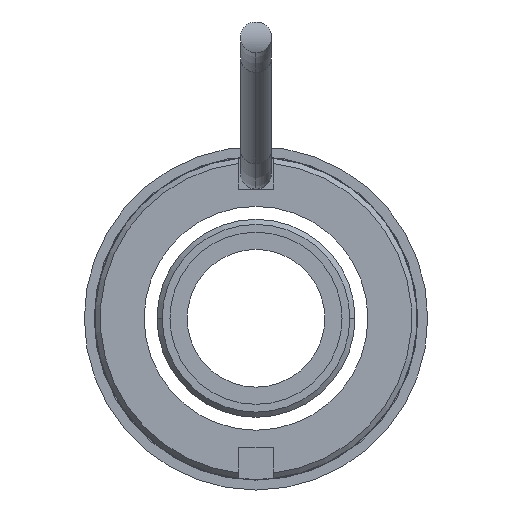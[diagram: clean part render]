
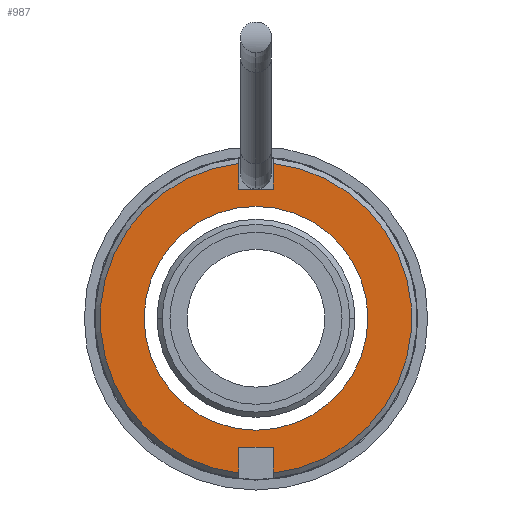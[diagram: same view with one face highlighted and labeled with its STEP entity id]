
A CAD part, left-side view. The second image highlights one B-rep face of the part: STEP entity #987.
In plain terms, the highlighted planar face has unit normal (-1, 0, 0).
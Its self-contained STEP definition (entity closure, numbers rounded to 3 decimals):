
#181=DIRECTION('',(0.,0.,1.));
#182=VECTOR('',#181,1.495);
#183=CARTESIAN_POINT('',(12.,1.,7.5));
#184=LINE('',#183,#182);
#195=DIRECTION('',(0.,1.,0.));
#196=VECTOR('',#195,2.);
#197=CARTESIAN_POINT('',(12.,-1.,-7.5));
#198=LINE('',#197,#196);
#202=DIRECTION('',(0.,0.,-1.));
#203=VECTOR('',#202,1.495);
#204=CARTESIAN_POINT('',(12.,1.,-7.5));
#205=LINE('',#204,#203);
#209=CARTESIAN_POINT('',(12.,0.,0.));
#210=DIRECTION('',(1.,0.,0.));
#211=DIRECTION('',(0.,0.11,-0.994));
#212=AXIS2_PLACEMENT_3D('',#209,#210,#211);
#217=DIRECTION('',(0.,-1.,0.));
#218=VECTOR('',#217,2.);
#219=CARTESIAN_POINT('',(12.,1.,7.5));
#220=LINE('',#219,#218);
#224=DIRECTION('',(0.,0.,1.));
#225=VECTOR('',#224,1.495);
#226=CARTESIAN_POINT('',(12.,-1.,7.5));
#227=LINE('',#226,#225);
#231=CARTESIAN_POINT('',(12.,0.,0.));
#232=DIRECTION('',(1.,0.,0.));
#233=DIRECTION('',(0.,-0.11,0.994));
#234=AXIS2_PLACEMENT_3D('',#231,#232,#233);
#239=CARTESIAN_POINT('',(12.,0.,0.));
#240=DIRECTION('',(-1.,0.,0.));
#241=DIRECTION('',(0.,-1.,0.));
#242=AXIS2_PLACEMENT_3D('',#239,#240,#241);
#247=CARTESIAN_POINT('',(12.,0.,0.));
#248=DIRECTION('',(-1.,0.,0.));
#249=DIRECTION('',(0.,1.,0.));
#250=AXIS2_PLACEMENT_3D('',#247,#248,#249);
#262=DIRECTION('',(0.,0.,-1.));
#263=VECTOR('',#262,1.495);
#264=CARTESIAN_POINT('',(12.,-1.,-7.5));
#265=LINE('',#264,#263);
#758=CARTESIAN_POINT('',(12.,-1.,-7.5));
#759=CARTESIAN_POINT('',(12.,-1.,-8.995));
#760=VERTEX_POINT('',#758);
#761=VERTEX_POINT('',#759);
#762=CARTESIAN_POINT('',(12.,1.,-7.5));
#763=VERTEX_POINT('',#762);
#764=CARTESIAN_POINT('',(12.,1.,-8.995));
#765=VERTEX_POINT('',#764);
#766=CARTESIAN_POINT('',(12.,1.,8.995));
#767=VERTEX_POINT('',#766);
#768=CARTESIAN_POINT('',(12.,1.,7.5));
#769=VERTEX_POINT('',#768);
#770=CARTESIAN_POINT('',(12.,-1.,7.5));
#771=VERTEX_POINT('',#770);
#772=CARTESIAN_POINT('',(12.,-1.,8.995));
#773=VERTEX_POINT('',#772);
#844=CARTESIAN_POINT('',(12.,-6.5,0.));
#845=CARTESIAN_POINT('',(12.,6.5,0.));
#846=VERTEX_POINT('',#844);
#847=VERTEX_POINT('',#845);
#961=CARTESIAN_POINT('',(12.,0.,0.));
#962=DIRECTION('',(1.,0.,0.));
#963=DIRECTION('',(0.,0.,1.));
#964=AXIS2_PLACEMENT_3D('',#961,#962,#963);
#965=PLANE('',#964);
#967=ORIENTED_EDGE('',*,*,#966,.F.);
#969=ORIENTED_EDGE('',*,*,#968,.T.);
#970=ORIENTED_EDGE('',*,*,#899,.T.);
#971=ORIENTED_EDGE('',*,*,#926,.T.);
#972=ORIENTED_EDGE('',*,*,#943,.F.);
#974=ORIENTED_EDGE('',*,*,#973,.T.);
#976=ORIENTED_EDGE('',*,*,#975,.T.);
#978=ORIENTED_EDGE('',*,*,#977,.T.);
#979=EDGE_LOOP('',(#967,#969,#970,#971,#972,#974,#976,#978));
#980=FACE_OUTER_BOUND('',#979,.F.);
#982=ORIENTED_EDGE('',*,*,#981,.T.);
#984=ORIENTED_EDGE('',*,*,#983,.T.);
#985=EDGE_LOOP('',(#982,#984));
#986=FACE_BOUND('',#985,.F.);
#213=CIRCLE('',#212,9.05);
#235=CIRCLE('',#234,9.05);
#243=CIRCLE('',#242,6.5);
#251=CIRCLE('',#250,6.5);
#899=EDGE_CURVE('',#763,#765,#205,.T.);
#926=EDGE_CURVE('',#765,#767,#213,.T.);
#943=EDGE_CURVE('',#769,#767,#184,.T.);
#966=EDGE_CURVE('',#760,#761,#265,.T.);
#968=EDGE_CURVE('',#760,#763,#198,.T.);
#973=EDGE_CURVE('',#769,#771,#220,.T.);
#975=EDGE_CURVE('',#771,#773,#227,.T.);
#977=EDGE_CURVE('',#773,#761,#235,.T.);
#981=EDGE_CURVE('',#846,#847,#243,.T.);
#983=EDGE_CURVE('',#847,#846,#251,.T.);
#987=ADVANCED_FACE('',(#980,#986),#965,.F.);
